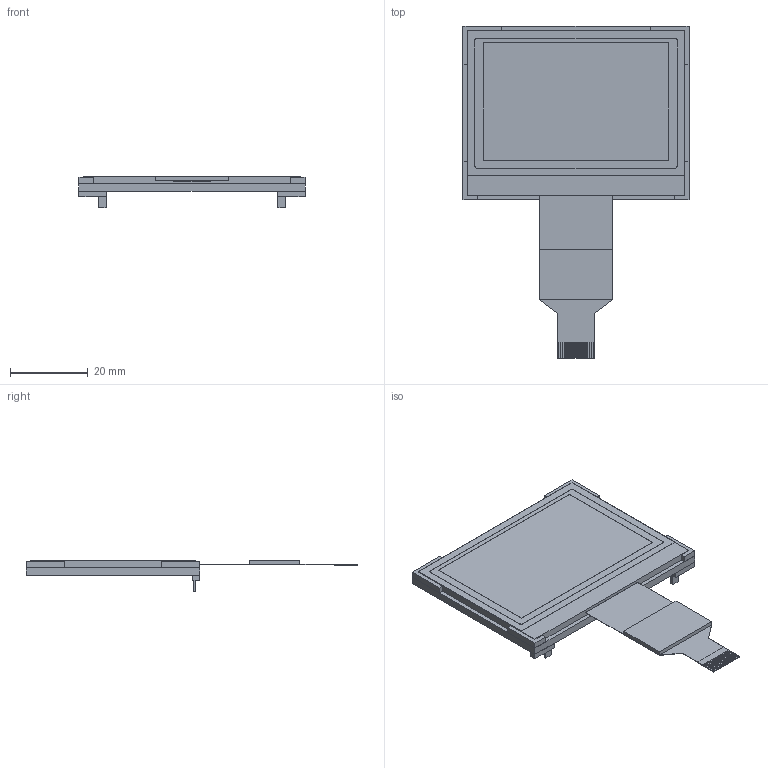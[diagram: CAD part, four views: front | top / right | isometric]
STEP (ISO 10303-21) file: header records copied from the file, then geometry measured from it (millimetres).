
FILE_DESCRIPTION (( 'STEP AP214' ), '1' );
FILE_NAME ('CFAG12864U3TFH.STEP', '2021-03-02T17:25:07', ( '' ), ( '' ), 'SwSTEP 2.0', 'SolidWorks 2020', '' );
FILE_SCHEMA (( 'AUTOMOTIVE_DESIGN' ));
Length unit declared in the file: millimetre
Products named in the file (3): CFAG12864U3TFH; Backlight frame; CFAG12864U3NFH
Assembly tree (2 placements, depth 2):
  CFAG12864U3TFH
    Backlight frame
    CFAG12864U3NFH
Bounding box: 58.2 x 85.46 x 8.12 mm (x, y, z)
Volume: 9960.2 mm3; surface area: 17512.3 mm2
Topology: 32 solids, 32 shells, 212 faces, 456 edges, 312 vertices
Faces by surface type: plane 212
Entity records: 7723 total; most frequent: CARTESIAN_POINT 985, ORIENTED_EDGE 912, DIRECTION 898, EDGE_CURVE 456, LINE 448, VECTOR 448, VERTEX_POINT 312, AXIS2_PLACEMENT_3D 225
